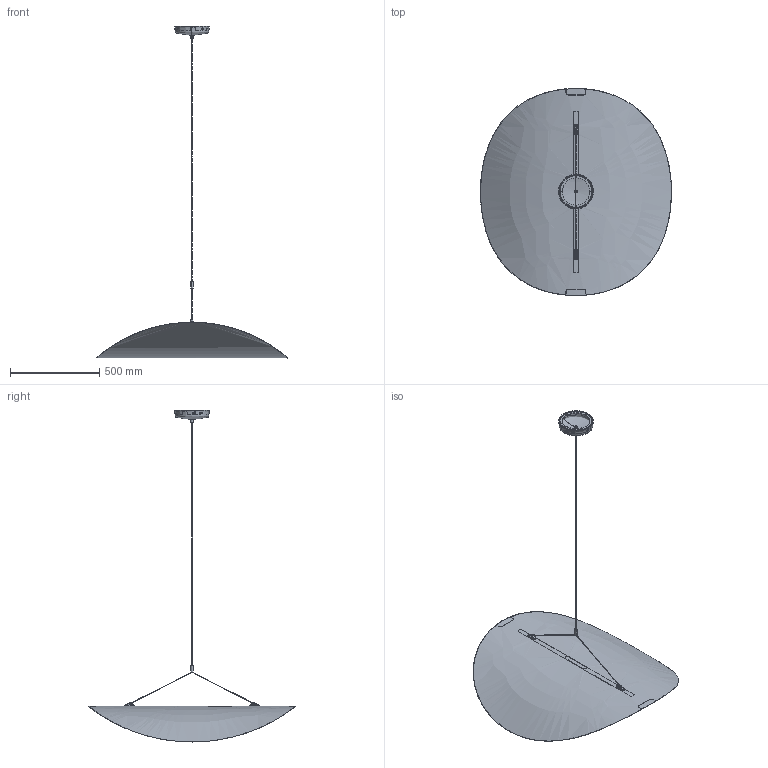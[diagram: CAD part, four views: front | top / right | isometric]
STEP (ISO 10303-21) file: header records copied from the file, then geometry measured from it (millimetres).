
FILE_DESCRIPTION(/* description */ (''),/* implementation_level */ '2;1');
FILE_NAME(/* name */ 'Tense Pendant Ø120 Download drawing',/* time_stamp */ '2021-01-21T10:34:27+01:00',/* author */ (''),/* organization */ (''),/* preprocessor_version */ 'ST-DEVELOPER v15',/* originating_system */ '',/* authorisation */ '');
FILE_SCHEMA (('AUTOMOTIVE_DESIGN'));
Length unit declared in the file: millimetre
Products named in the file (3): Document; M6_SET_SCREW; CABLE_SOCKET_M14_SCREW
Assembly tree (2 placements, depth 2):
  Document
    M6_SET_SCREW
    CABLE_SOCKET_M14_SCREW
Bounding box: 1069.69 x 1159.45 x 1857.31 mm (x, y, z)
Volume: 1473351.2 mm3; surface area: 4639222 mm2
Topology: 7 solids, 11 shells, 842 faces, 2043 edges, 1322 vertices
Faces by surface type: plane 575, bspline 267
Entity records: 33438 total; most frequent: CARTESIAN_POINT 19720, ORIENTED_EDGE 4056, EDGE_CURVE 2034, B_SPLINE_CURVE_WITH_KNOTS 1628, VERTEX_POINT 1321, EDGE_LOOP 978, ADVANCED_FACE 842, FACE_OUTER_BOUND 842
